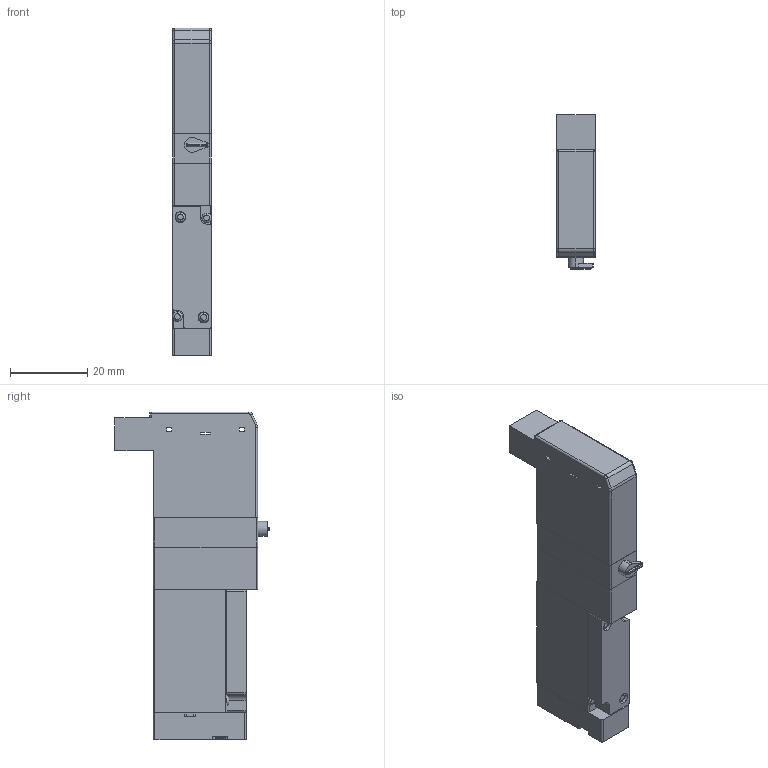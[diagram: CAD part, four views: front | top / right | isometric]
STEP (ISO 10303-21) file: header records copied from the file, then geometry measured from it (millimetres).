
FILE_DESCRIPTION( (''), '2;1');
FILE_NAME ('CVICAD02.13484.F10T0-R-A1_5646.stp','2020-09-01T14:09:29',(''),(''),'spGate 12.6.6','','');
FILE_SCHEMA (('AUTOMOTIVE_DESIGN'));
Length unit declared in the file: millimetre
Products named in the file (7): Assembly; F10T_Body; F10_Adptor; F10_Cap; F_Connector-L; F10_A1; F_3PortBody-R
Assembly tree (6 placements, depth 2):
  Assembly
    F10T_Body
    F10_Adptor
    F10_Cap
    F_Connector-L
    F10_A1
    F_3PortBody-R
Bounding box: 10.2 x 40 x 85 mm (x, y, z)
Volume: 22276.6 mm3; surface area: 10032.3 mm2
Topology: 6 solids, 6 shells, 190 faces, 464 edges, 294 vertices
Faces by surface type: plane 92, cylinder 72, bspline 20, sphere 6
Entity records: 9806 total; most frequent: CARTESIAN_POINT 1381, DIRECTION 971, ORIENTED_EDGE 916, COLOUR_RGB 654, PRESENTATION_STYLE_ASSIGNMENT 654, STYLED_ITEM 654, EDGE_CURVE 458, DRAUGHTING_PRE_DEFINED_CURVE_FONT 458
